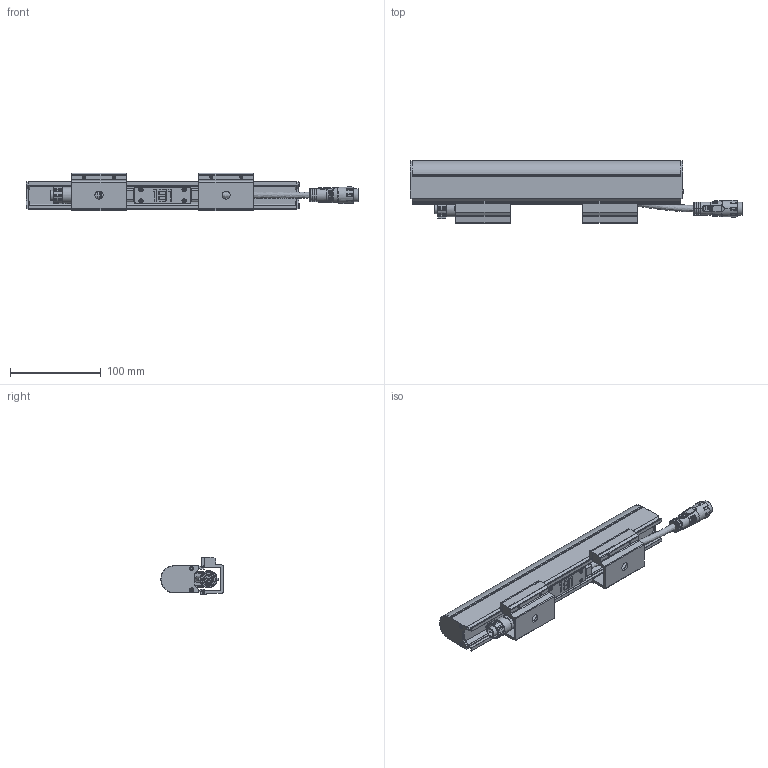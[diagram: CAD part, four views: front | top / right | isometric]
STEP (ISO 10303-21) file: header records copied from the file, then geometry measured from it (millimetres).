
FILE_DESCRIPTION (( 'STEP AP214' ), '1' );
FILE_NAME ('E series 2 Dome L300.STEP', '2025-11-24T13:34:44', ( '' ), ( '' ), 'SwSTEP 2.0', 'SolidWorks 2025', '' );
FILE_SCHEMA (( 'AUTOMOTIVE_DESIGN' ));
Length unit declared in the file: millimetre
Products named in the file (10): Counter sunk screw torx_M3x16; M16 5p Female; E series 2 Dome L300; E series 2 with dome cover body and bare config_300mm; E series 2 mounting clip top; Part53^E series 2; E series 2 with dome cover body and bare config_Bare 300mm; E series 2 mounting clip bottom; Counter sunk screw torx_M2.5x16; M16 5p Male
Assembly tree (25 placements, depth 2):
  E series 2 Dome L300
    E series 2 with dome cover body and bare config_300mm
    E series 2 with dome cover body and bare config_Bare 300mm
    Counter sunk screw torx_M2.5x16  x12
    E series 2 mounting clip bottom  x2
    E series 2 mounting clip top  x2
    Counter sunk screw torx_M3x16  x4
    M16 5p Female
    M16 5p Male
    Part53^E series 2
Bounding box: 365.7 x 68.7 x 41.7 mm (x, y, z)
Volume: 389894.2 mm3; surface area: 107466.6 mm2
Topology: 27 solids, 29 shells, 1591 faces, 3977 edges, 2516 vertices
Faces by surface type: cylinder 672, plane 550, torus 123, bspline 116, cone 108, sphere 22
Full cylindrical faces by diameter (mm): 2.4 x2, 2.5 x12, 3 x4, 4.5 x12, 5.81 x4, 9.2 x1, 11.1 x1, 14.25 x1, 14.3 x1, 18 x1
Entity records: 55742 total; most frequent: CARTESIAN_POINT 18596, ORIENTED_EDGE 6116, DIRECTION 5680, EDGE_CURVE 3058, AXIS2_PLACEMENT_3D 2208, VERTEX_POINT 1942, EDGE_LOOP 1376, VECTOR 1264
